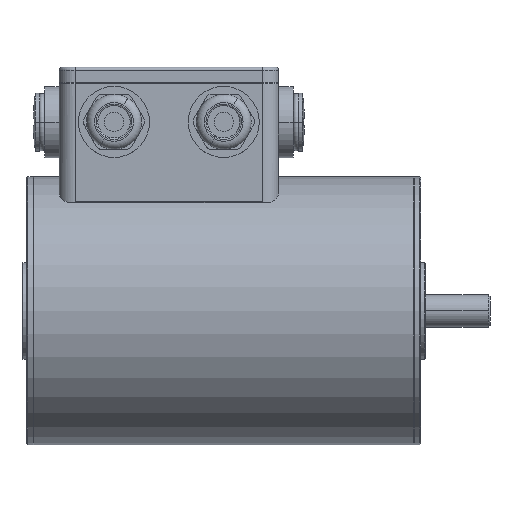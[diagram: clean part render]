
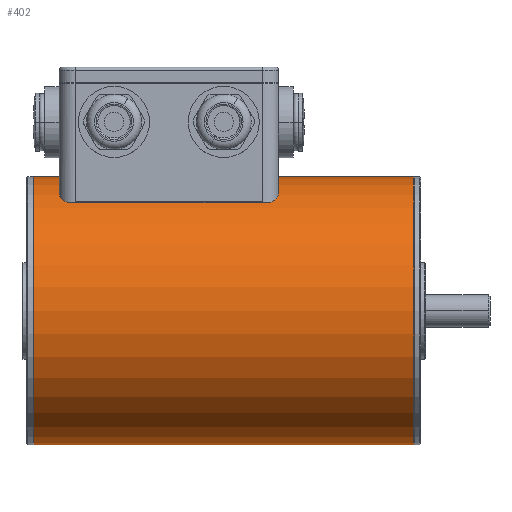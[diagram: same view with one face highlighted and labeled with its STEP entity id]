
A CAD part, top view. The second image highlights one B-rep face of the part: STEP entity #402.
In plain terms, the highlighted cylindrical face has radius 41.5 mm (diameter 83 mm), a partial arc.
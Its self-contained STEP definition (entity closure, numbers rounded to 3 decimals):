
#89 = DIRECTION ( 'NONE',  ( 1., 0., 0. ) ) ;
#402 = ADVANCED_FACE ( 'NONE', ( #6689 ), #8038, .T. ) ;
#585 = CARTESIAN_POINT ( 'NONE',  ( -119.9, 41.5, 0. ) ) ;
#672 = VERTEX_POINT ( 'NONE', #3856 ) ;
#1508 = ORIENTED_EDGE ( 'NONE', *, *, #10615, .F. ) ;
#1592 = DIRECTION ( 'NONE',  ( 0., 1., 0. ) ) ;
#1968 = VERTEX_POINT ( 'NONE', #585 ) ;
#3856 = CARTESIAN_POINT ( 'NONE',  ( -2.1, 41.5, 0. ) ) ;
#4037 = CARTESIAN_POINT ( 'NONE',  ( -119.9, 0., 0. ) ) ;
#4254 = DIRECTION ( 'NONE',  ( 1., 0., 0. ) ) ;
#4257 = EDGE_CURVE ( 'NONE', #10224, #4620, #9240, .T. ) ;
#4620 = VERTEX_POINT ( 'NONE', #4961 ) ;
#4735 = ORIENTED_EDGE ( 'NONE', *, *, #5257, .T. ) ;
#4961 = CARTESIAN_POINT ( 'NONE',  ( -2.1, -41.5, 0. ) ) ;
#5041 = DIRECTION ( 'NONE',  ( 0., 1., 0. ) ) ;
#5142 = CARTESIAN_POINT ( 'NONE',  ( -2.1, 0., 0. ) ) ;
#5257 = EDGE_CURVE ( 'NONE', #1968, #10224, #9506, .T. ) ;
#5606 = CIRCLE ( 'NONE', #11486, 41.5 ) ;
#6104 = DIRECTION ( 'NONE',  ( 0., 1., 0. ) ) ;
#6667 = VECTOR ( 'NONE', #4254, 1000. ) ;
#6689 = FACE_OUTER_BOUND ( 'NONE', #9305, .T. ) ;
#7659 = CARTESIAN_POINT ( 'NONE',  ( -2., 0., 0. ) ) ;
#8038 = CYLINDRICAL_SURFACE ( 'NONE', #8402, 41.5 ) ;
#8365 = AXIS2_PLACEMENT_3D ( 'NONE', #4037, #10813, #5041 ) ;
#8402 = AXIS2_PLACEMENT_3D ( 'NONE', #7659, #89, #1592 ) ;
#8448 = CARTESIAN_POINT ( 'NONE',  ( -119.9, -41.5, 0. ) ) ;
#8576 = LINE ( 'NONE', #12417, #10857 ) ;
#9240 = LINE ( 'NONE', #11967, #6667 ) ;
#9305 = EDGE_LOOP ( 'NONE', ( #4735, #10585, #1508, #10758 ) ) ;
#9506 = CIRCLE ( 'NONE', #8365, 41.5 ) ;
#10224 = VERTEX_POINT ( 'NONE', #8448 ) ;
#10585 = ORIENTED_EDGE ( 'NONE', *, *, #4257, .T. ) ;
#10615 = EDGE_CURVE ( 'NONE', #672, #4620, #5606, .T. ) ;
#10758 = ORIENTED_EDGE ( 'NONE', *, *, #11711, .F. ) ;
#10813 = DIRECTION ( 'NONE',  ( 1., 0., 0. ) ) ;
#10857 = VECTOR ( 'NONE', #11485, 1000. ) ;
#11485 = DIRECTION ( 'NONE',  ( 1., 0., 0. ) ) ;
#11486 = AXIS2_PLACEMENT_3D ( 'NONE', #5142, #11880, #6104 ) ;
#11711 = EDGE_CURVE ( 'NONE', #1968, #672, #8576, .T. ) ;
#11880 = DIRECTION ( 'NONE',  ( 1., 0., 0. ) ) ;
#11967 = CARTESIAN_POINT ( 'NONE',  ( -2., -41.5, 0. ) ) ;
#12417 = CARTESIAN_POINT ( 'NONE',  ( -2., 41.5, 0. ) ) ;
